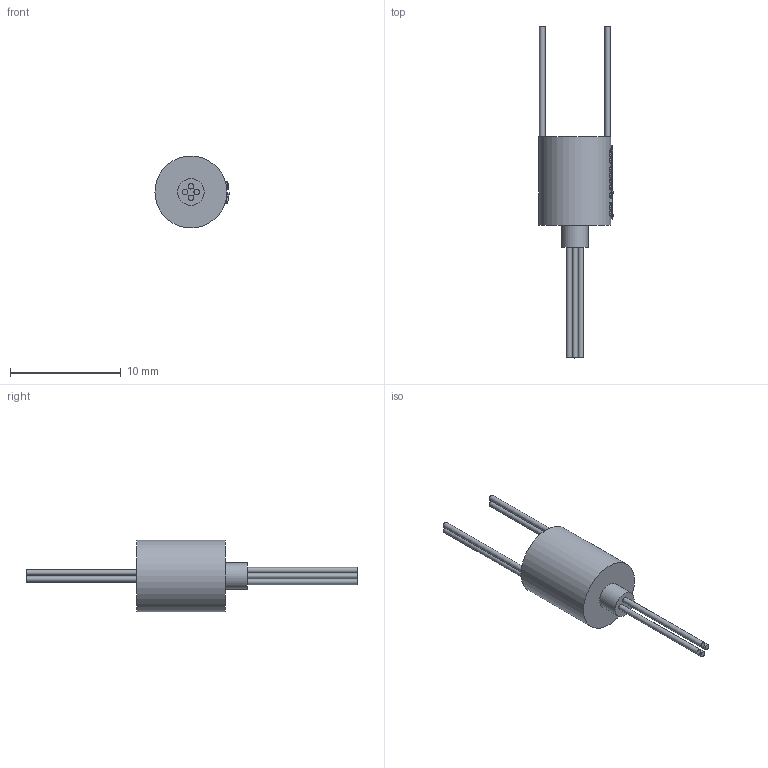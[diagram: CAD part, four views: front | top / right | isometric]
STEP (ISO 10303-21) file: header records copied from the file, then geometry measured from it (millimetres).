
FILE_DESCRIPTION(/* description */ (''),/* implementation_level */ '2;1');
FILE_NAME(/* name */ 'YM07-04.stp',/* time_stamp */ '2025-09-05T09:25:12+08:00',/* author */ (''),/* organization */ (''),/* preprocessor_version */ 'ST-DEVELOPER v16.7',/* originating_system */ 'SIEMENS PLM Software NX 12.0',/* authorisation */ '');
FILE_SCHEMA (('AUTOMOTIVE_DESIGN { 1 0 10303 214 3 1 1 1 }'));
Length unit declared in the file: millimetre
Products named in the file (1): Admi30D0F0663ak2
Bounding box: 6.7 x 30 x 6.5 mm (x, y, z)
Volume: 290.8 mm3; surface area: 387.7 mm2
Topology: 1 solids, 1 shells, 702 faces, 1938 edges, 1292 vertices
Faces by surface type: extrusion 450, plane 197, bspline 29, cylinder 26
Full cylindrical faces by diameter (mm): 0.5 x8, 2.4 x1, 6.5 x1
Entity records: 30251 total; most frequent: CARTESIAN_POINT 15579, ORIENTED_EDGE 3856, B_SPLINE_CURVE_WITH_KNOTS 2116, EDGE_CURVE 1928, DIRECTION 1310, VERTEX_POINT 1292, EDGE_LOOP 766, ADVANCED_FACE 702
